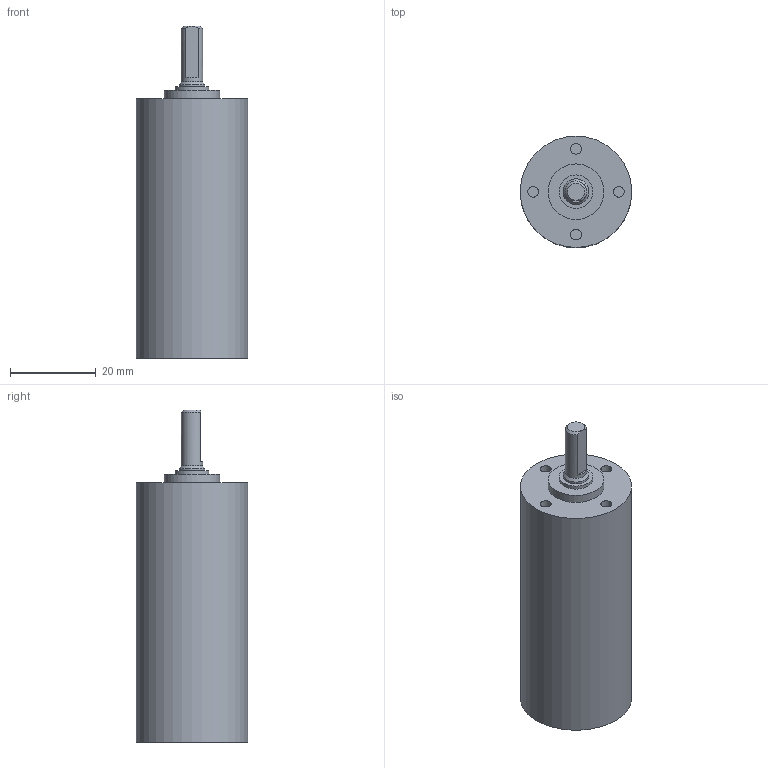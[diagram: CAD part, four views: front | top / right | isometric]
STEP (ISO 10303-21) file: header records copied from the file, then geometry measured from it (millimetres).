
FILE_DESCRIPTION(/* description */ (''),/* implementation_level */ '2;1');
FILE_NAME(/* name */ '26-1R_5stage.stp',/* time_stamp */ '2017-04-18T12:22:36+02:00',/* author */ ('DR. FRITZ FAULHABER GmbH & Co. KG'),/* organization */ ('DR. FRITZ FAULHABER GmbH & Co. KG'),/* preprocessor_version */ 'ST-DEVELOPER v16',/* originating_system */ 'SIEMENS PLM Software NX 10.0',/* authorisation */ '');
FILE_SCHEMA (('AUTOMOTIVE_DESIGN { 1 0 10303 214 3 1 1 1 }'));
Length unit declared in the file: millimetre
Products named in the file (1): H00000167_B
Bounding box: 26 x 26 x 77.5 mm (x, y, z)
Volume: 28207.9 mm3; surface area: 7302.8 mm2
Topology: 1 solids, 1 shells, 33 faces, 56 edges, 37 vertices
Faces by surface type: plane 16, cylinder 15, cone 2
Full cylindrical faces by diameter (mm): 2.5 x4, 5 x1, 6 x1, 7.85 x1, 11.69 x1, 11.7 x1, 13 x1, 21.5 x1, 22.05 x1, 24 x1, 24.459 x1, 26 x1
Entity records: 717 total; most frequent: DIRECTION 131, CARTESIAN_POINT 126, ORIENTED_EDGE 72, AXIS2_PLACEMENT_3D 64, EDGE_LOOP 61, FACE_BOUND 52, EDGE_CURVE 36, ADVANCED_FACE 33
